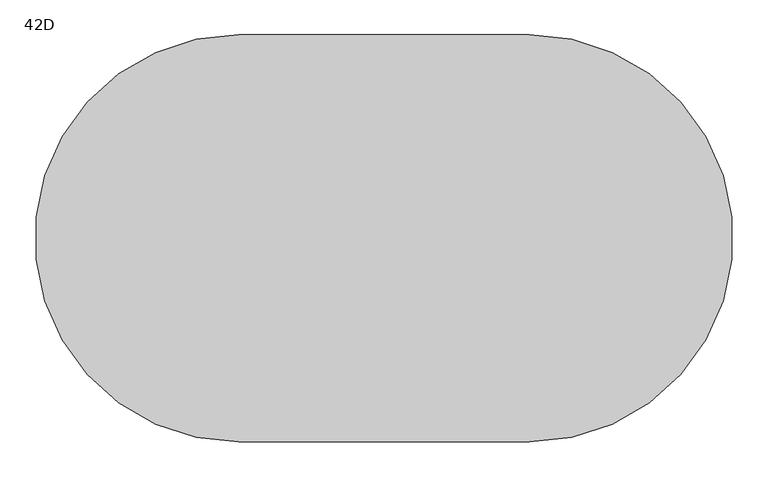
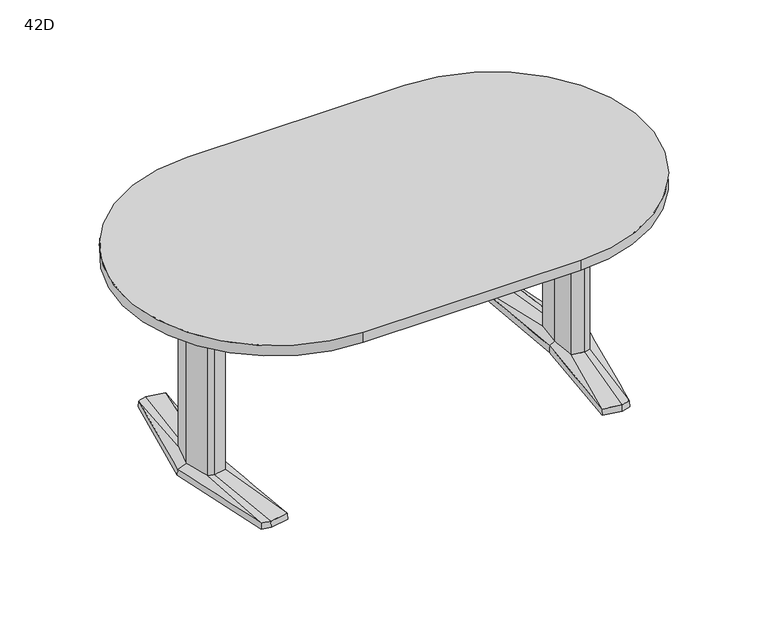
"""IFC4 building model written with IfcOpenShell, lengths in millimetres: furniture geometry, Coalesse_AM_Table_Conference_ETable2_Racetrack_72in_AluminiumBase : 42D."""

from ifc_helpers import new_model, si_unit, point, frame, frame_2d, origin, place, context, project, spatial, polyline, circle_curve, trimmed, segment, composite_curve, outline, extrude, source, transform, mapped, element, save
from ifc_brep_helpers import plane_surface, spline_surface, advanced_brep


def furniture_42d_15517e0b(model_context):
    return source(origin(), model_context, "Body", "SolidModel", [
        advanced_brep(
        [(614.8503471, -379.3768856, 25.4), (644.5756636, -371.5332654, 25.4), (668.2327243, -89.293702, 36.5125), (648.9795254, -94.605478, 36.5125), (606.0521001, -87.0529327, 36.5125), (551.7612538, -368.5071562, 25.4), (597.9364207, 0.0, 36.5125), (579.8389754, 0.3970149, 25.4), (606.0521001, 87.0529327, 36.5125), (551.7615002, 368.5172593, 25.4), (648.9795254, 94.605478, 36.5125), (614.8502233, 379.3769183, 25.4), (668.2327243, 89.293702, 36.5125), (644.7535458, 371.4863276, 25.4), (692.1595251, 0.0, 36.5125), (721.4851663, 0.0003516, 25.4), (578.2468742, 0.3968871, 3.175), (550.06875, 369.8367279, 3.175), (614.9213004, 381.0, 3.175), (646.1093245, 372.7704151, 3.175), (723.10625, 0.0, 3.175), (645.9309817, -372.8174744, 3.175), (614.9213004, -381.0, 3.175), (550.06875, -369.8264415, 3.175), (649.5979264, 107.6121478, 3.175), (594.3065451, 97.8843184, 3.175), (585.1810887, 0.0, 3.175), (594.3065451, -97.8843184, 3.175), (649.5979264, -107.6121478, 3.175), (678.6183473, -99.6056872, 3.175), (705.3083085, 0.0, 3.175), (678.6183473, 99.6056872, 3.175), (613.4286812, 346.9152841, 3.175), (557.7811371, 337.3364985, 3.175), (560.1889918, 324.8641942, 3.175), (612.8600644, 333.9306305, 3.175), (648.6725609, 324.4807859, 3.175), (647.5544526, 337.9105158, 3.175), (613.4286812, -346.9152841, 3.175), (647.5544526, -337.9105158, 3.175), (648.6725609, -324.4807859, 3.175), (612.8600644, -333.9306305, 3.175), (560.1889918, -324.8641942, 3.175), (557.7811371, -337.3364985, 3.175), (649.5979264, 107.6121478, 0.0), (678.6183473, 99.6056872, 0.0), (705.3083085, 0.0, 0.0), (678.6183473, -99.6056872, 0.0), (649.5979264, -107.6121478, 0.0), (594.3065451, -97.8843184, 0.0), (585.1810887, 0.0, 0.0), (594.3065451, 97.8843184, 0.0), (613.4286812, 346.9152841, 0.0), (647.5544526, 337.9105158, 0.0), (648.6725609, 324.4807859, 0.0), (612.8600644, 333.9306305, 0.0), (560.1889918, 324.8641942, 0.0), (557.7811371, 337.3364985, 0.0), (613.4286812, -346.9152841, 0.0), (557.7811371, -337.3364985, 0.0), (560.1889918, -324.8641942, 0.0), (612.8600644, -333.9306305, 0.0), (648.6725609, -324.4807859, 0.0), (647.5544526, -337.9105158, 0.0), (668.2327243, 89.293702, 698.5), (648.9795254, 94.605478, 698.5), (606.0521001, 87.0529327, 698.5), (597.9364207, 0.0, 698.5), (606.0521001, -87.0529327, 698.5), (648.9795254, -94.605478, 698.5), (668.2327243, -89.293702, 698.5), (692.1595251, 0.0, 698.5)],
        [
            (0, 1),
            (1, 2),
            (2, 3),
            (3, 0),
            (3, 4),
            (4, 5),
            (5, 0),
            (4, 6),
            (6, 7),
            (7, 5),
            (6, 8),
            (8, 9),
            (9, 7),
            (8, 10),
            (10, 11),
            (11, 9),
            (10, 12),
            (12, 13),
            (13, 11),
            (12, 14),
            (14, 15),
            (15, 13),
            (1, 15),
            (14, 2),
            (16, 17),
            (17, 18),
            (18, 19),
            (19, 20),
            (20, 21),
            (21, 22),
            (22, 23),
            (23, 16),
            (24, 25),
            (25, 26),
            (26, 27),
            (27, 28),
            (28, 29),
            (29, 30),
            (30, 31),
            (31, 24),
            (32, 33),
            (33, 34),
            (34, 35),
            (35, 36),
            (36, 37),
            (37, 32),
            (38, 39),
            (39, 40),
            (40, 41),
            (41, 42),
            (42, 43),
            (43, 38),
            (16, 7),
            (9, 17),
            (11, 18),
            (13, 19),
            (15, 20),
            (1, 21),
            (0, 22),
            (5, 23),
            (44, 45),
            (45, 46),
            (46, 47),
            (47, 48),
            (48, 49),
            (49, 50),
            (50, 51),
            (51, 44),
            (52, 53),
            (53, 54),
            (54, 55),
            (55, 56),
            (56, 57),
            (57, 52),
            (58, 59),
            (59, 60),
            (60, 61),
            (61, 62),
            (62, 63),
            (63, 58),
            (44, 24),
            (31, 45),
            (30, 46),
            (29, 47),
            (28, 48),
            (27, 49),
            (26, 50),
            (25, 51),
            (52, 32),
            (37, 53),
            (36, 54),
            (35, 55),
            (34, 56),
            (33, 57),
            (58, 38),
            (43, 59),
            (42, 60),
            (41, 61),
            (40, 62),
            (39, 63),
            (64, 65),
            (65, 66),
            (66, 67),
            (67, 68),
            (68, 69),
            (69, 70),
            (70, 71),
            (71, 64),
            (71, 14),
            (12, 64),
            (70, 2),
            (69, 3),
            (68, 4),
            (67, 6),
            (66, 8),
            (65, 10),
        ],
        [
            spline_surface(1, 1, [[(644.5756636, -371.5332654, 25.4), (614.8503471, -379.3768856, 25.4)], [(668.2327243, -89.293702, 36.5125), (648.9795254, -94.605478, 36.5125)]], [2, 2], [2, 2], [0.0, 1.0], [0.0, 1.0]),
            spline_surface(1, 1, [[(614.8503471, -379.3768856, 25.4), (551.7612538, -368.5071562, 25.4)], [(648.9795254, -94.605478, 36.5125), (606.0521001, -87.0529327, 36.5125)]], [2, 2], [2, 2], [0.0, 1.0], [0.0, 1.0]),
            spline_surface(1, 1, [[(551.7612538, -368.5071562, 25.4), (579.8389754, 0.3970149, 25.4)], [(606.0521001, -87.0529327, 36.5125), (597.9364207, 0.0, 36.5125)]], [2, 2], [2, 2], [0.0, 1.0], [0.0, 1.0]),
            spline_surface(1, 1, [[(579.8389754, 0.3970149, 25.4), (551.7615002, 368.5172593, 25.4)], [(597.9364207, 0.0, 36.5125), (606.0521001, 87.0529327, 36.5125)]], [2, 2], [2, 2], [0.0, 1.0], [0.0, 1.0]),
            spline_surface(1, 1, [[(551.7615002, 368.5172593, 25.4), (614.8502233, 379.3769183, 25.4)], [(606.0521001, 87.0529327, 36.5125), (648.9795254, 94.605478, 36.5125)]], [2, 2], [2, 2], [0.0, 1.0], [0.0, 1.0]),
            spline_surface(1, 1, [[(614.8502233, 379.3769183, 25.4), (644.7535458, 371.4863276, 25.4)], [(648.9795254, 94.605478, 36.5125), (668.2327243, 89.293702, 36.5125)]], [2, 2], [2, 2], [0.0, 1.0], [0.0, 1.0]),
            spline_surface(1, 1, [[(644.7535458, 371.4863276, 25.4), (721.4851663, 0.0003516, 25.4)], [(668.2327243, 89.293702, 36.5125), (692.1595251, 0.0, 36.5125)]], [2, 2], [2, 2], [0.0, 1.0], [0.0, 1.0]),
            spline_surface(1, 1, [[(721.4851663, 0.0003516, 25.4), (644.5756636, -371.5332654, 25.4)], [(692.1595251, 0.0, 36.5125), (668.2327243, -89.293702, 36.5125)]], [2, 2], [2, 2], [0.0, 1.0], [0.0, 1.0]),
            plane_surface(frame((615.4216914, 0.0450143, 3.175), z_axis=(0.0, 0.0, -1.0), x_axis=(-0.9669048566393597, -0.2551372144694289, 0.0))),
            plane_surface(frame((564.1578121, 185.1168075, 3.175), z_axis=(-0.9945699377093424, -0.07585840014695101, 0.0712470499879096), x_axis=(-0.07605167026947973, 0.9971038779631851, 0.0))),
            plane_surface(frame((582.4950252, 375.418364, 3.175), z_axis=(-0.1692071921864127, 0.9830019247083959, 0.07124704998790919), x_axis=(0.985506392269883, 0.16963829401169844, 0.0))),
            plane_surface(frame((630.5153124, 376.8852076, 3.175), z_axis=(0.2544888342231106, 0.9644476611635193, 0.07124704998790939), x_axis=(0.9669048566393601, -0.25513721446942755, 0.0))),
            plane_surface(frame((684.6077872, 186.3852076, 3.175), z_axis=(0.9768383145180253, 0.2017690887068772, 0.07124704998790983), x_axis=(0.20228315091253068, -0.9793270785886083, 0.0))),
            plane_surface(frame((684.5186158, -186.4087372, 3.175), z_axis=(0.9767507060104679, -0.20219276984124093, 0.07124704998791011), x_axis=(-0.2027079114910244, -0.9792392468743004, 0.0))),
            plane_surface(frame((630.426141, -376.9087372, 3.175), z_axis=(0.2544888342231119, -0.9644476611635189, 0.0712470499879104), x_axis=(-0.9669048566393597, -0.2551372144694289, 0.0))),
            plane_surface(frame((582.4950252, -375.4132207, 3.175), z_axis=(-0.16935861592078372, -0.982975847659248, 0.07124704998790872), x_axis=(-0.9854802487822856, 0.16979010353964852, 0.0))),
            plane_surface(frame((564.1578121, -184.7147772, 3.175), z_axis=(-0.9945820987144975, 0.07569878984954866, 0.07124704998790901), x_axis=(0.07589165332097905, 0.9971160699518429, 0.0))),
            plane_surface(frame((652.3571479, 106.8509046, 0.0), z_axis=(0.0, 0.0, -1.0000000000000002), x_axis=(-0.9639855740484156, 0.26595453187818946, 0.0))),
            plane_surface(frame((649.5979264, 107.6121478, 3.175), z_axis=(0.26595453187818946, 0.9639855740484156, 0.0), x_axis=(0.0, 0.0, -1.0))),
            plane_surface(frame((678.6183473, 99.6056872, 3.175), z_axis=(0.9659241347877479, 0.2588253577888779, 0.0), x_axis=(0.0, 0.0, -1.0))),
            plane_surface(frame((705.3083085, 0.0, 3.175), z_axis=(0.9659241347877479, -0.2588253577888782, 0.0), x_axis=(0.0, 0.0, -1.0))),
            plane_surface(frame((678.6183473, -99.6056872, 3.175), z_axis=(0.26595453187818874, -0.9639855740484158, 0.0), x_axis=(0.0, 0.0, -1.0))),
            plane_surface(frame((649.5979264, -107.6121478, 3.175), z_axis=(-0.17327617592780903, -0.9848732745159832, 0.0), x_axis=(0.0, 0.0, -1.0))),
            plane_surface(frame((594.3065451, -97.8843184, 3.175), z_axis=(-0.9956824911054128, -0.0928244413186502, 0.0), x_axis=(0.0, 0.0, -1.0))),
            plane_surface(frame((585.1810887, 0.0, 3.175), z_axis=(-0.9956824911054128, 0.09282444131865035, 0.0), x_axis=(0.0, 0.0, -1.0))),
            plane_surface(frame((594.3065451, 97.8843184, 3.175), z_axis=(-0.17327617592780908, 0.984873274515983, 0.0), x_axis=(0.0, 0.0, -1.0))),
            plane_surface(frame((613.4286812, 346.9152841, 3.175), z_axis=(0.25513721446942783, 0.9669048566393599, 0.0), x_axis=(0.0, 0.0, -1.0))),
            plane_surface(frame((647.5544526, 337.9105158, 3.175), z_axis=(0.9965521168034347, 0.0829691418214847, 0.0), x_axis=(0.0, 0.0, -1.0))),
            plane_surface(frame((648.6725609, 324.4807859, 3.175), z_axis=(-0.25513721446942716, -0.9669048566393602, 0.0), x_axis=(0.0, 0.0, -1.0))),
            plane_surface(frame((612.8600644, 333.9306305, 3.175), z_axis=(0.16963829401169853, -0.985506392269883, 0.0), x_axis=(0.0, 0.0, -1.0))),
            plane_surface(frame((560.1889918, 324.8641942, 3.175), z_axis=(-0.9818699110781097, -0.18955600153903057, 0.0), x_axis=(0.0, 0.0, -1.0))),
            plane_surface(frame((557.7811371, 337.3364985, 3.175), z_axis=(-0.16963829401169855, 0.9855063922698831, 0.0), x_axis=(0.0, 0.0, -1.0))),
            plane_surface(frame((613.4286812, -346.9152841, 3.175), z_axis=(-0.1696382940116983, -0.9855063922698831, 0.0), x_axis=(0.0, 0.0, -1.0))),
            plane_surface(frame((557.7811371, -337.3364985, 3.175), z_axis=(-0.9818699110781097, 0.18955600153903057, 0.0), x_axis=(0.0, 0.0, -1.0))),
            plane_surface(frame((560.1889918, -324.8641942, 3.175), z_axis=(0.16963829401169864, 0.985506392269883, 0.0), x_axis=(0.0, 0.0, -1.0))),
            plane_surface(frame((612.8600644, -333.9306305, 3.175), z_axis=(-0.2551372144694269, 0.9669048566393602, 0.0), x_axis=(0.0, 0.0, -1.0))),
            plane_surface(frame((648.6725609, -324.4807859, 3.175), z_axis=(0.9965521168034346, -0.0829691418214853, 0.0), x_axis=(0.0, 0.0, -1.0))),
            plane_surface(frame((647.5544526, -337.9105158, 3.175), z_axis=(0.2551372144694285, -0.9669048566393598, 0.0), x_axis=(0.0, 0.0, -1.0))),
            plane_surface(frame((692.1595251, 0.0, 698.5), z_axis=(0.0, 0.0, 1.0), x_axis=(0.25882535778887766, -0.965924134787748, 0.0))),
            plane_surface(frame((668.2327243, 89.293702, 698.5), z_axis=(0.965924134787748, 0.25882535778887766, 0.0), x_axis=(0.0, 0.0, -1.0))),
            plane_surface(frame((692.1595251, 0.0, 698.5), z_axis=(0.965924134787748, -0.2588253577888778, 0.0), x_axis=(0.0, 0.0, -1.0))),
            plane_surface(frame((668.2327243, -89.293702, 698.5), z_axis=(0.2659545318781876, -0.963985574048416, 0.0), x_axis=(0.0, 0.0, -1.0))),
            plane_surface(frame((648.9795254, -94.605478, 698.5), z_axis=(-0.1732761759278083, -0.9848732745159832, 0.0), x_axis=(0.0, 0.0, -1.0))),
            plane_surface(frame((606.0521001, -87.0529327, 698.5), z_axis=(-0.9956824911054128, -0.0928244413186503, 0.0), x_axis=(0.0, 0.0, -1.0))),
            plane_surface(frame((597.9364207, 0.0, 698.5), z_axis=(-0.9956824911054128, 0.09282444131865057, 0.0), x_axis=(0.0, 0.0, -1.0))),
            plane_surface(frame((606.0521001, 87.0529327, 698.5), z_axis=(-0.17327617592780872, 0.9848732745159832, 0.0), x_axis=(0.0, 0.0, -1.0))),
            plane_surface(frame((648.9795254, 94.605478, 698.5), z_axis=(0.26595453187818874, 0.9639855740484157, 0.0), x_axis=(0.0, 0.0, -1.0))),
        ],
        [
            (0, [[1, 2, 3, 4]]),
            (1, [[5, 6, 7, -4]]),
            (2, [[8, 9, 10, -6]]),
            (3, [[11, 12, 13, -9]]),
            (4, [[14, 15, 16, -12]]),
            (5, [[17, 18, 19, -15]]),
            (6, [[20, 21, 22, -18]]),
            (7, [[23, -21, 24, -2]]),
            (8, [[25, 26, 27, 28, 29, 30, 31, 32], [33, 34, 35, 36, 37, 38, 39, 40], [41, 42, 43, 44, 45, 46], [47, 48, 49, 50, 51, 52]]),
            (9, [[53, -13, 54, -25]]),
            (10, [[-54, -16, 55, -26]]),
            (11, [[-55, -19, 56, -27]]),
            (12, [[-56, -22, 57, -28]]),
            (13, [[-57, -23, 58, -29]]),
            (14, [[-58, -1, 59, -30]]),
            (15, [[-59, -7, 60, -31]]),
            (16, [[-60, -10, -53, -32]]),
            (17, [[61, 62, 63, 64, 65, 66, 67, 68]]),
            (17, [[69, 70, 71, 72, 73, 74]]),
            (17, [[75, 76, 77, 78, 79, 80]]),
            (18, [[81, -40, 82, -61]]),
            (19, [[-82, -39, 83, -62]]),
            (20, [[-83, -38, 84, -63]]),
            (21, [[-84, -37, 85, -64]]),
            (22, [[-85, -36, 86, -65]]),
            (23, [[-86, -35, 87, -66]]),
            (24, [[-87, -34, 88, -67]]),
            (25, [[-88, -33, -81, -68]]),
            (26, [[89, -46, 90, -69]]),
            (27, [[-90, -45, 91, -70]]),
            (28, [[-91, -44, 92, -71]]),
            (29, [[-92, -43, 93, -72]]),
            (30, [[-93, -42, 94, -73]]),
            (31, [[-94, -41, -89, -74]]),
            (32, [[95, -52, 96, -75]]),
            (33, [[-96, -51, 97, -76]]),
            (34, [[-97, -50, 98, -77]]),
            (35, [[-98, -49, 99, -78]]),
            (36, [[-99, -48, 100, -79]]),
            (37, [[-100, -47, -95, -80]]),
            (38, [[101, 102, 103, 104, 105, 106, 107, 108]]),
            (39, [[109, -20, 110, -108]]),
            (40, [[111, -24, -109, -107]]),
            (41, [[112, -3, -111, -106]]),
            (42, [[113, -5, -112, -105]]),
            (43, [[114, -8, -113, -104]]),
            (44, [[115, -11, -114, -103]]),
            (45, [[116, -14, -115, -102]]),
            (46, [[-110, -17, -116, -101]]),
        ],
    ),
        advanced_brep(
        [(-614.8503471, -379.3768856, 25.4), (-648.9795254, -94.605478, 36.5125), (-668.2327243, -89.293702, 36.5125), (-644.5756636, -371.5332654, 25.4), (-551.7612538, -368.5071562, 25.4), (-606.0521001, -87.0529327, 36.5125), (-579.8389754, 0.3970149, 25.4), (-597.9364207, 0.0, 36.5125), (-551.7615002, 368.5172593, 25.4), (-606.0521001, 87.0529327, 36.5125), (-614.8502233, 379.3769183, 25.4), (-648.9795254, 94.605478, 36.5125), (-644.7535458, 371.4863276, 25.4), (-668.2327243, 89.293702, 36.5125), (-721.4851663, 0.0003516, 25.4), (-692.1595251, 0.0, 36.5125), (-578.2468742, 0.3968871, 3.175), (-550.06875, -369.8264415, 3.175), (-614.9213004, -381.0, 3.175), (-645.9309817, -372.8174744, 3.175), (-723.10625, 0.0, 3.175), (-646.1093245, 372.7704151, 3.175), (-614.9213004, 381.0, 3.175), (-550.06875, 369.8367279, 3.175), (-649.5979264, 107.6121478, 3.175), (-678.6183473, 99.6056872, 3.175), (-705.3083085, 0.0, 3.175), (-678.6183473, -99.6056872, 3.175), (-649.5979264, -107.6121478, 3.175), (-594.3065451, -97.8843184, 3.175), (-585.1810887, 0.0, 3.175), (-594.3065451, 97.8843184, 3.175), (-613.4286812, 346.9152841, 3.175), (-647.5544526, 337.9105158, 3.175), (-648.6725609, 324.4807859, 3.175), (-612.8600644, 333.9306305, 3.175), (-560.1889918, 324.8641942, 3.175), (-557.7811371, 337.3364985, 3.175), (-613.4286812, -346.9152841, 3.175), (-557.7811371, -337.3364985, 3.175), (-560.1889918, -324.8641942, 3.175), (-612.8600644, -333.9306305, 3.175), (-648.6725609, -324.4807859, 3.175), (-647.5544526, -337.9105158, 3.175), (-649.5979264, 107.6121478, 0.0), (-594.3065451, 97.8843184, 0.0), (-585.1810887, 0.0, 0.0), (-594.3065451, -97.8843184, 0.0), (-649.5979264, -107.6121478, 0.0), (-678.6183473, -99.6056872, 0.0), (-705.3083085, 0.0, 0.0), (-678.6183473, 99.6056872, 0.0), (-613.4286812, 346.9152841, 0.0), (-557.7811371, 337.3364985, 0.0), (-560.1889918, 324.8641942, 0.0), (-612.8600644, 333.9306305, 0.0), (-648.6725609, 324.4807859, 0.0), (-647.5544526, 337.9105158, 0.0), (-613.4286812, -346.9152841, 0.0), (-647.5544526, -337.9105158, 0.0), (-648.6725609, -324.4807859, 0.0), (-612.8600644, -333.9306305, 0.0), (-560.1889918, -324.8641942, 0.0), (-557.7811371, -337.3364985, 0.0), (-668.2327243, 89.293702, 698.5), (-692.1595251, 0.0, 698.5), (-668.2327243, -89.293702, 698.5), (-648.9795254, -94.605478, 698.5), (-606.0521001, -87.0529327, 698.5), (-597.9364207, 0.0, 698.5), (-606.0521001, 87.0529327, 698.5), (-648.9795254, 94.605478, 698.5)],
        [
            (0, 1),
            (1, 2),
            (2, 3),
            (3, 0),
            (0, 4),
            (4, 5),
            (5, 1),
            (4, 6),
            (6, 7),
            (7, 5),
            (6, 8),
            (8, 9),
            (9, 7),
            (8, 10),
            (10, 11),
            (11, 9),
            (10, 12),
            (12, 13),
            (13, 11),
            (12, 14),
            (14, 15),
            (15, 13),
            (2, 15),
            (14, 3),
            (16, 17),
            (17, 18),
            (18, 19),
            (19, 20),
            (20, 21),
            (21, 22),
            (22, 23),
            (23, 16),
            (24, 25),
            (25, 26),
            (26, 27),
            (27, 28),
            (28, 29),
            (29, 30),
            (30, 31),
            (31, 24),
            (32, 33),
            (33, 34),
            (34, 35),
            (35, 36),
            (36, 37),
            (37, 32),
            (38, 39),
            (39, 40),
            (40, 41),
            (41, 42),
            (42, 43),
            (43, 38),
            (23, 8),
            (6, 16),
            (22, 10),
            (21, 12),
            (20, 14),
            (19, 3),
            (18, 0),
            (17, 4),
            (44, 45),
            (45, 46),
            (46, 47),
            (47, 48),
            (48, 49),
            (49, 50),
            (50, 51),
            (51, 44),
            (52, 53),
            (53, 54),
            (54, 55),
            (55, 56),
            (56, 57),
            (57, 52),
            (58, 59),
            (59, 60),
            (60, 61),
            (61, 62),
            (62, 63),
            (63, 58),
            (51, 25),
            (24, 44),
            (50, 26),
            (49, 27),
            (48, 28),
            (47, 29),
            (46, 30),
            (45, 31),
            (57, 33),
            (32, 52),
            (56, 34),
            (55, 35),
            (54, 36),
            (53, 37),
            (63, 39),
            (38, 58),
            (62, 40),
            (61, 41),
            (60, 42),
            (59, 43),
            (64, 65),
            (65, 66),
            (66, 67),
            (67, 68),
            (68, 69),
            (69, 70),
            (70, 71),
            (71, 64),
            (64, 13),
            (15, 65),
            (2, 66),
            (1, 67),
            (5, 68),
            (7, 69),
            (9, 70),
            (11, 71),
        ],
        [
            spline_surface(1, 1, [[(-644.5756636, -371.5332654, 25.4), (-668.2327243, -89.293702, 36.5125)], [(-614.8503471, -379.3768856, 25.4), (-648.9795254, -94.605478, 36.5125)]], [2, 2], [2, 2], [0.0, 1.0], [0.0, 1.0]),
            spline_surface(1, 1, [[(-614.8503471, -379.3768856, 25.4), (-648.9795254, -94.605478, 36.5125)], [(-551.7612538, -368.5071562, 25.4), (-606.0521001, -87.0529327, 36.5125)]], [2, 2], [2, 2], [0.0, 1.0], [0.0, 1.0]),
            spline_surface(1, 1, [[(-551.7612538, -368.5071562, 25.4), (-606.0521001, -87.0529327, 36.5125)], [(-579.8389754, 0.3970149, 25.4), (-597.9364207, 0.0, 36.5125)]], [2, 2], [2, 2], [0.0, 1.0], [0.0, 1.0]),
            spline_surface(1, 1, [[(-579.8389754, 0.3970149, 25.4), (-597.9364207, 0.0, 36.5125)], [(-551.7615002, 368.5172593, 25.4), (-606.0521001, 87.0529327, 36.5125)]], [2, 2], [2, 2], [0.0, 1.0], [0.0, 1.0]),
            spline_surface(1, 1, [[(-551.7615002, 368.5172593, 25.4), (-606.0521001, 87.0529327, 36.5125)], [(-614.8502233, 379.3769183, 25.4), (-648.9795254, 94.605478, 36.5125)]], [2, 2], [2, 2], [0.0, 1.0], [0.0, 1.0]),
            spline_surface(1, 1, [[(-614.8502233, 379.3769183, 25.4), (-648.9795254, 94.605478, 36.5125)], [(-644.7535458, 371.4863276, 25.4), (-668.2327243, 89.293702, 36.5125)]], [2, 2], [2, 2], [0.0, 1.0], [0.0, 1.0]),
            spline_surface(1, 1, [[(-644.7535458, 371.4863276, 25.4), (-668.2327243, 89.293702, 36.5125)], [(-721.4851663, 0.0003516, 25.4), (-692.1595251, 0.0, 36.5125)]], [2, 2], [2, 2], [0.0, 1.0], [0.0, 1.0]),
            spline_surface(1, 1, [[(-721.4851663, 0.0003516, 25.4), (-692.1595251, 0.0, 36.5125)], [(-644.5756636, -371.5332654, 25.4), (-668.2327243, -89.293702, 36.5125)]], [2, 2], [2, 2], [0.0, 1.0], [0.0, 1.0]),
            plane_surface(frame((-615.4216914, 0.0450143, 3.175), z_axis=(0.0, 0.0, -1.0), x_axis=(0.9669048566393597, -0.2551372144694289, 0.0))),
            plane_surface(frame((-564.1578121, 185.1168075, 3.175), z_axis=(0.9945699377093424, -0.07585840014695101, 0.0712470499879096), x_axis=(0.07605167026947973, 0.9971038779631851, 0.0))),
            plane_surface(frame((-582.4950252, 375.418364, 3.175), z_axis=(0.1692071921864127, 0.9830019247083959, 0.07124704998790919), x_axis=(-0.985506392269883, 0.16963829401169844, 0.0))),
            plane_surface(frame((-630.5153124, 376.8852076, 3.175), z_axis=(-0.2544888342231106, 0.9644476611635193, 0.07124704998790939), x_axis=(-0.9669048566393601, -0.25513721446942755, 0.0))),
            plane_surface(frame((-684.6077872, 186.3852076, 3.175), z_axis=(-0.9768383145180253, 0.2017690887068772, 0.07124704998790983), x_axis=(-0.20228315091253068, -0.9793270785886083, 0.0))),
            plane_surface(frame((-684.5186158, -186.4087372, 3.175), z_axis=(-0.9767507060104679, -0.20219276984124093, 0.07124704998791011), x_axis=(0.2027079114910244, -0.9792392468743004, 0.0))),
            plane_surface(frame((-630.426141, -376.9087372, 3.175), z_axis=(-0.2544888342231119, -0.9644476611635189, 0.0712470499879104), x_axis=(0.9669048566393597, -0.2551372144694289, 0.0))),
            plane_surface(frame((-582.4950252, -375.4132207, 3.175), z_axis=(0.16935861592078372, -0.982975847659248, 0.07124704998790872), x_axis=(0.9854802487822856, 0.16979010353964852, 0.0))),
            plane_surface(frame((-564.1578121, -184.7147772, 3.175), z_axis=(0.9945820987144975, 0.07569878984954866, 0.07124704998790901), x_axis=(-0.07589165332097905, 0.9971160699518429, 0.0))),
            plane_surface(frame((-652.3571479, 106.8509046, 0.0), z_axis=(0.0, 0.0, -1.0000000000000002), x_axis=(0.9639855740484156, 0.26595453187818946, 0.0))),
            plane_surface(frame((-649.5979264, 107.6121478, 3.175), z_axis=(-0.26595453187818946, 0.9639855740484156, 0.0), x_axis=(0.0, 0.0, -1.0))),
            plane_surface(frame((-678.6183473, 99.6056872, 3.175), z_axis=(-0.9659241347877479, 0.2588253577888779, 0.0), x_axis=(0.0, 0.0, -1.0))),
            plane_surface(frame((-705.3083085, 0.0, 3.175), z_axis=(-0.9659241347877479, -0.2588253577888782, 0.0), x_axis=(0.0, 0.0, -1.0))),
            plane_surface(frame((-678.6183473, -99.6056872, 3.175), z_axis=(-0.26595453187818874, -0.9639855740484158, 0.0), x_axis=(0.0, 0.0, -1.0))),
            plane_surface(frame((-649.5979264, -107.6121478, 3.175), z_axis=(0.17327617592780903, -0.9848732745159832, 0.0), x_axis=(0.0, 0.0, -1.0))),
            plane_surface(frame((-594.3065451, -97.8843184, 3.175), z_axis=(0.9956824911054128, -0.0928244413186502, 0.0), x_axis=(0.0, 0.0, -1.0))),
            plane_surface(frame((-585.1810887, 0.0, 3.175), z_axis=(0.9956824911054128, 0.09282444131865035, 0.0), x_axis=(0.0, 0.0, -1.0))),
            plane_surface(frame((-594.3065451, 97.8843184, 3.175), z_axis=(0.17327617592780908, 0.984873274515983, 0.0), x_axis=(0.0, 0.0, -1.0))),
            plane_surface(frame((-613.4286812, 346.9152841, 3.175), z_axis=(-0.25513721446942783, 0.9669048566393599, 0.0), x_axis=(0.0, 0.0, -1.0))),
            plane_surface(frame((-647.5544526, 337.9105158, 3.175), z_axis=(-0.9965521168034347, 0.0829691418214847, 0.0), x_axis=(0.0, 0.0, -1.0))),
            plane_surface(frame((-648.6725609, 324.4807859, 3.175), z_axis=(0.25513721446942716, -0.9669048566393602, 0.0), x_axis=(0.0, 0.0, -1.0))),
            plane_surface(frame((-612.8600644, 333.9306305, 3.175), z_axis=(-0.16963829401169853, -0.985506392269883, 0.0), x_axis=(0.0, 0.0, -1.0))),
            plane_surface(frame((-560.1889918, 324.8641942, 3.175), z_axis=(0.9818699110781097, -0.18955600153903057, 0.0), x_axis=(0.0, 0.0, -1.0))),
            plane_surface(frame((-557.7811371, 337.3364985, 3.175), z_axis=(0.16963829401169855, 0.9855063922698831, 0.0), x_axis=(0.0, 0.0, -1.0))),
            plane_surface(frame((-613.4286812, -346.9152841, 3.175), z_axis=(0.1696382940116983, -0.9855063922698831, 0.0), x_axis=(0.0, 0.0, -1.0))),
            plane_surface(frame((-557.7811371, -337.3364985, 3.175), z_axis=(0.9818699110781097, 0.18955600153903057, 0.0), x_axis=(0.0, 0.0, -1.0))),
            plane_surface(frame((-560.1889918, -324.8641942, 3.175), z_axis=(-0.16963829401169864, 0.985506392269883, 0.0), x_axis=(0.0, 0.0, -1.0))),
            plane_surface(frame((-612.8600644, -333.9306305, 3.175), z_axis=(0.2551372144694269, 0.9669048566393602, 0.0), x_axis=(0.0, 0.0, -1.0))),
            plane_surface(frame((-648.6725609, -324.4807859, 3.175), z_axis=(-0.9965521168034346, -0.0829691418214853, 0.0), x_axis=(0.0, 0.0, -1.0))),
            plane_surface(frame((-647.5544526, -337.9105158, 3.175), z_axis=(-0.2551372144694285, -0.9669048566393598, 0.0), x_axis=(0.0, 0.0, -1.0))),
            plane_surface(frame((-692.1595251, 0.0, 698.5), z_axis=(0.0, 0.0, 1.0), x_axis=(-0.25882535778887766, -0.965924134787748, 0.0))),
            plane_surface(frame((-668.2327243, 89.293702, 698.5), z_axis=(-0.965924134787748, 0.25882535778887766, 0.0), x_axis=(0.0, 0.0, -1.0))),
            plane_surface(frame((-692.1595251, 0.0, 698.5), z_axis=(-0.965924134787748, -0.2588253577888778, 0.0), x_axis=(0.0, 0.0, -1.0))),
            plane_surface(frame((-668.2327243, -89.293702, 698.5), z_axis=(-0.2659545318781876, -0.963985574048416, 0.0), x_axis=(0.0, 0.0, -1.0))),
            plane_surface(frame((-648.9795254, -94.605478, 698.5), z_axis=(0.1732761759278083, -0.9848732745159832, 0.0), x_axis=(0.0, 0.0, -1.0))),
            plane_surface(frame((-606.0521001, -87.0529327, 698.5), z_axis=(0.9956824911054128, -0.0928244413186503, 0.0), x_axis=(0.0, 0.0, -1.0))),
            plane_surface(frame((-597.9364207, 0.0, 698.5), z_axis=(0.9956824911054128, 0.09282444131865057, 0.0), x_axis=(0.0, 0.0, -1.0))),
            plane_surface(frame((-606.0521001, 87.0529327, 698.5), z_axis=(0.17327617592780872, 0.9848732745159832, 0.0), x_axis=(0.0, 0.0, -1.0))),
            plane_surface(frame((-648.9795254, 94.605478, 698.5), z_axis=(-0.26595453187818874, 0.9639855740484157, 0.0), x_axis=(0.0, 0.0, -1.0))),
        ],
        [
            (0, [[1, 2, 3, 4]]),
            (1, [[-1, 5, 6, 7]]),
            (2, [[-6, 8, 9, 10]]),
            (3, [[-9, 11, 12, 13]]),
            (4, [[-12, 14, 15, 16]]),
            (5, [[-15, 17, 18, 19]]),
            (6, [[-18, 20, 21, 22]]),
            (7, [[-3, 23, -21, 24]]),
            (8, [[25, 26, 27, 28, 29, 30, 31, 32], [33, 34, 35, 36, 37, 38, 39, 40], [41, 42, 43, 44, 45, 46], [47, 48, 49, 50, 51, 52]]),
            (9, [[-32, 53, -11, 54]]),
            (10, [[-31, 55, -14, -53]]),
            (11, [[-30, 56, -17, -55]]),
            (12, [[-29, 57, -20, -56]]),
            (13, [[-28, 58, -24, -57]]),
            (14, [[-27, 59, -4, -58]]),
            (15, [[-26, 60, -5, -59]]),
            (16, [[-25, -54, -8, -60]]),
            (17, [[61, 62, 63, 64, 65, 66, 67, 68]]),
            (17, [[69, 70, 71, 72, 73, 74]]),
            (17, [[75, 76, 77, 78, 79, 80]]),
            (18, [[-68, 81, -33, 82]]),
            (19, [[-67, 83, -34, -81]]),
            (20, [[-66, 84, -35, -83]]),
            (21, [[-65, 85, -36, -84]]),
            (22, [[-64, 86, -37, -85]]),
            (23, [[-63, 87, -38, -86]]),
            (24, [[-62, 88, -39, -87]]),
            (25, [[-61, -82, -40, -88]]),
            (26, [[-74, 89, -41, 90]]),
            (27, [[-73, 91, -42, -89]]),
            (28, [[-72, 92, -43, -91]]),
            (29, [[-71, 93, -44, -92]]),
            (30, [[-70, 94, -45, -93]]),
            (31, [[-69, -90, -46, -94]]),
            (32, [[-80, 95, -47, 96]]),
            (33, [[-79, 97, -48, -95]]),
            (34, [[-78, 98, -49, -97]]),
            (35, [[-77, 99, -50, -98]]),
            (36, [[-76, 100, -51, -99]]),
            (37, [[-75, -96, -52, -100]]),
            (38, [[101, 102, 103, 104, 105, 106, 107, 108]]),
            (39, [[-101, 109, -22, 110]]),
            (40, [[-102, -110, -23, 111]]),
            (41, [[-103, -111, -2, 112]]),
            (42, [[-104, -112, -7, 113]]),
            (43, [[-105, -113, -10, 114]]),
            (44, [[-106, -114, -13, 115]]),
            (45, [[-107, -115, -16, 116]]),
            (46, [[-108, -116, -19, -109]]),
        ],
    ),
        extrude(outline(polyline([(96.8375, 698.5), (103.1875, 698.5), (103.1875, 476.25), (-103.1875, 476.25), (-103.1875, 698.5), (-96.8375, 698.5), (-96.8375, 482.6), (96.8375, 482.6), (96.8375, 698.5)])), frame((-597.9364207, 0.0, 0.0), z_axis=(1.0, 0.0, 0.0), x_axis=(0.0, 1.0, 0.0)), (0.0, 0.0, 1.0), 1195.8728415),
        extrude(outline(composite_curve([segment(trimmed(circle_curve(frame_2d((-381.0, 0.0)), 533.4), [point((-381.0, -533.4))], [point((-381.0, 533.4))], False, "CARTESIAN"), True, "CONTINUOUS"), segment(polyline([(-381.0, 533.4), (381.0, 533.4)]), True, "CONTINUOUS"), segment(trimmed(circle_curve(frame_2d((381.0, 0.0)), 533.4), [point((381.0, 533.4))], [point((381.0, -533.4))], False, "CARTESIAN"), True, "CONTINUOUS"), segment(polyline([(381.0, -533.4), (-381.0, -533.4)]), True, "CONTINUOUS")], self_intersect=False)), frame((0.0, 0.0, 698.5), z_axis=(0.0, 0.0, 1.0), x_axis=(1.0, 0.0, 0.0)), (0.0, 0.0, 1.0), 38.1),
    ])


if __name__ == "__main__":
    model = new_model("IFC4")
    model_context = context("Model", 3, world=origin())
    ifc_project = project(units=[si_unit("LENGTHUNIT", "METRE", prefix="MILLI")], contexts=[model_context])
    site = spatial("IfcSite", under=ifc_project)
    building = spatial("IfcBuilding", under=site)
    placement = place(None, origin())
    furniture_42d_shape = furniture_42d_15517e0b(model_context)
    element("IfcFurniture", 1, ObjectType="Coalesse_AM_Table_Conference_ETable2_Racetrack_72in_AluminiumBase : 42D", at=placement, inside=building, context=model_context, shape_type="MappedRepresentation", body=[
        mapped(furniture_42d_shape, transform((0.0, 0.0, 0.0), x_axis=(1.0, 0.0, 0.0), y_axis=(0.0, 1.0, 0.0), z_axis=(0.0, 0.0, 1.0))),
    ])
    save(model, "model.ifc")
